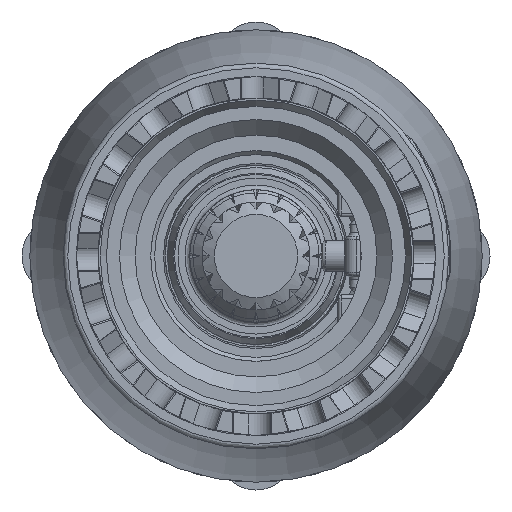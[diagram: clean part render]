
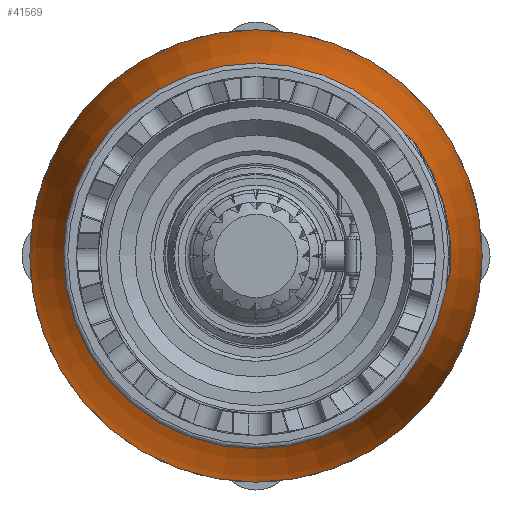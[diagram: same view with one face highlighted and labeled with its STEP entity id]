
A CAD part, left-side view. The second image highlights one B-rep face of the part: STEP entity #41569.
In plain terms, the highlighted toroidal (fillet/blend) face has major radius 126 mm and minor radius 155 mm.
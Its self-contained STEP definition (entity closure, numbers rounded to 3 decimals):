
#7232 = CARTESIAN_POINT ( 'NONE',  ( -221.244, 0., 0. ) ) ;
#9877 = TOROIDAL_SURFACE ( 'NONE', #72177, -126., 155. ) ;
#14724 = DIRECTION ( 'NONE',  ( 0., 0., -1. ) ) ;
#16004 = CARTESIAN_POINT ( 'NONE',  ( -176.521, 0., 0. ) ) ;
#16932 = FACE_OUTER_BOUND ( 'NONE', #41756, .T. ) ;
#23550 = DIRECTION ( 'NONE',  ( 0., 0., -1. ) ) ;
#24481 = AXIS2_PLACEMENT_3D ( 'NONE', #7232, #59296, #14724 ) ;
#29052 = DIRECTION ( 'NONE',  ( 1., 0., 0. ) ) ;
#41569 = ADVANCED_FACE ( 'NONE', ( #16932, #93749 ), #9877, .T. ) ;
#41756 = EDGE_LOOP ( 'NONE', ( #52713 ) ) ;
#51343 = CIRCLE ( 'NONE', #66824, 29. ) ;
#52713 = ORIENTED_EDGE ( 'NONE', *, *, #91669, .T. ) ;
#59296 = DIRECTION ( 'NONE',  ( 1., 0., 0. ) ) ;
#59650 = EDGE_LOOP ( 'NONE', ( #92066 ) ) ;
#60054 = VERTEX_POINT ( 'NONE', #85587 ) ;
#62156 = CARTESIAN_POINT ( 'NONE',  ( -176.521, 0., -29. ) ) ;
#66824 = AXIS2_PLACEMENT_3D ( 'NONE', #16004, #68063, #23550 ) ;
#68063 = DIRECTION ( 'NONE',  ( 1., 0., 0. ) ) ;
#72177 = AXIS2_PLACEMENT_3D ( 'NONE', #80724, #29052, #81039 ) ;
#78120 = EDGE_CURVE ( 'NONE', #81089, #81089, #51343, .T. ) ;
#80724 = CARTESIAN_POINT ( 'NONE',  ( -176.521, 0., 0. ) ) ;
#81039 = DIRECTION ( 'NONE',  ( 0., 0., -1. ) ) ;
#81089 = VERTEX_POINT ( 'NONE', #62156 ) ;
#82713 = CIRCLE ( 'NONE', #24481, 22.408 ) ;
#85587 = CARTESIAN_POINT ( 'NONE',  ( -221.244, 0., -22.408 ) ) ;
#91669 = EDGE_CURVE ( 'NONE', #60054, #60054, #82713, .T. ) ;
#92066 = ORIENTED_EDGE ( 'NONE', *, *, #78120, .F. ) ;
#93749 = FACE_OUTER_BOUND ( 'NONE', #59650, .T. ) ;
